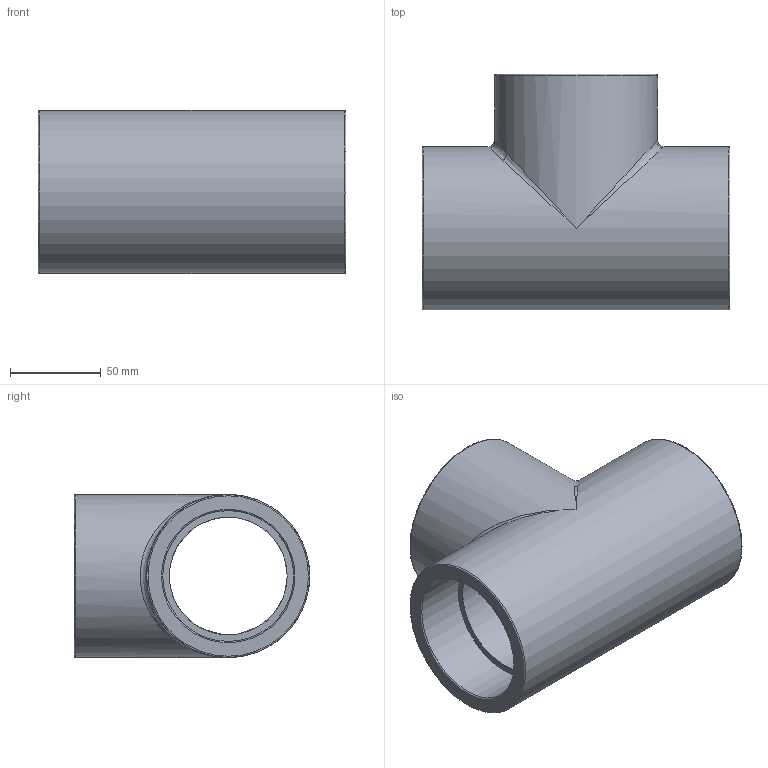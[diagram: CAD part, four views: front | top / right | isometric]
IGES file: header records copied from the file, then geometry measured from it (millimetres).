
Global section: file name: 050401025.ipt; native system: Autodesk Inventor 2015; preprocessor: unknown; author: KIM; date: 20171207.164517; units: millimetre
Bounding box: 170 x 130 x 90 mm (x, y, z)
Volume: 556982.5 mm3; surface area: 110054.9 mm2
Topology: 1 solids, 1 shells, 20 faces, 59 edges, 40 vertices
Faces by surface type: revolution 10, plane 6, bspline 2, cylinder 2
Full cylindrical faces by diameter (mm): 90 x2
